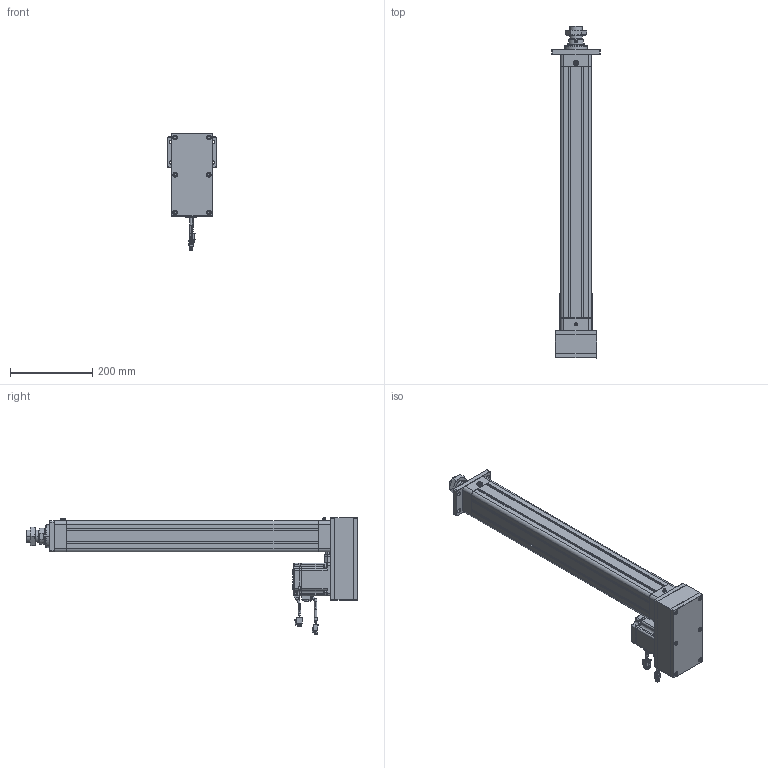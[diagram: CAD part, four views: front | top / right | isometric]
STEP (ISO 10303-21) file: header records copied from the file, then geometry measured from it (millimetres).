
FILE_DESCRIPTION((''),'2;1');
FILE_NAME('ASM0001_ASM','2020-04-15T',('ASUS20200'),(''),'CREO PARAMETRIC BY PTC INC, 2014190','CREO PARAMETRIC BY PTC INC, 2014190','');
FILE_SCHEMA(('CONFIG_CONTROL_DESIGN'));
Length unit declared in the file: millimetre
Products named in the file (31): HE63-D-P-001-X1; HE63-D-P-002-X1; HE63-D-P-003-X1; LGLM-M8-22; SLM-01; YZ-M6X1; JDB405030; HE63-P-010-X1-80N; _MHMF082L1A2; _CABLE_MOTOR_BOTTOM_05; _CABLE_MOTOR_TOP_05; _MOTOR_CONNECTOR_2; _CABLE_BRAKE_BOTTOM_05; _CABLE_BRAKE_TOP_05; _MHMF_CONNECTOR_9_PIN_A6; MHMF082L1A2M2_1_ASM; JX6X6X25; HE63-P-012-X1; HE63-P-013-X1; M6X60; JM-M8; LM-M8-15; LM-M8X1-25; HE63-D-P-005-X1; HE63-D-P-004-X1; HE63-D-P-008-X1; TD-6; M6X25; F-SE63FA; M8X16; ASM0001_ASM
Assembly tree (51 placements, depth 3):
  ASM0001_ASM
    HE63-D-P-001-X1
    HE63-D-P-002-X1
    HE63-D-P-003-X1
    LGLM-M8-22  x8
    SLM-01
    YZ-M6X1
    JDB405030
    HE63-P-010-X1-80N
    MHMF082L1A2M2_1_ASM
      _MHMF082L1A2
      _CABLE_MOTOR_BOTTOM_05
      _CABLE_MOTOR_TOP_05
      _MOTOR_CONNECTOR_2
      _CABLE_BRAKE_BOTTOM_05
      _CABLE_BRAKE_TOP_05
      _MHMF_CONNECTOR_9_PIN_A6
    JX6X6X25
    HE63-P-012-X1
    HE63-P-013-X1
    M6X60  x6
    JM-M8
    LM-M8-15
    LM-M8X1-25
    HE63-D-P-005-X1
    HE63-D-P-004-X1
    HE63-D-P-008-X1
    TD-6  x4
    M6X25  x4
    F-SE63FA
    M8X16  x4
Bounding box: 118 x 807 x 284.15 mm (x, y, z)
Volume: 2893502.3 mm3; surface area: 836670.3 mm2
Topology: 50 solids, 80 shells, 2791 faces, 6723 edges, 4184 vertices
Faces by surface type: plane 1199, cylinder 788, cone 609, torus 150, sphere 42, bspline 3
Entity records: 68783 total; most frequent: CARTESIAN_POINT 13040, DIRECTION 12235, ORIENTED_EDGE 10914, EDGE_CURVE 5511, AXIS2_PLACEMENT_3D 4572, VERTEX_POINT 3453, VECTOR 3091, LINE 3091
